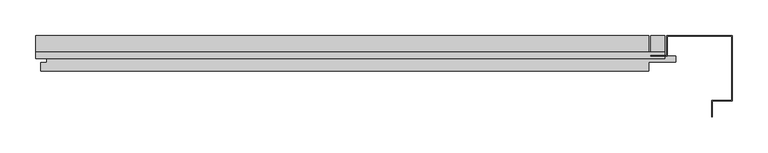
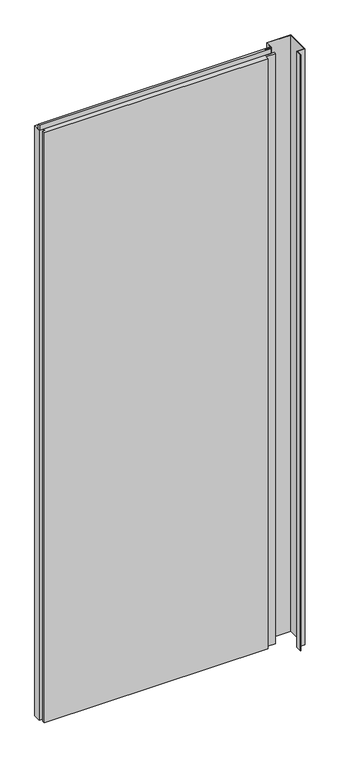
"""IFC4 building model written with IfcOpenShell, lengths in millimetres: plate geometry, Trimo_Qbiss Screen_Normal Panel-VERTICAL : HR - B."""

from ifc_helpers import new_model, si_unit, frame, origin, place, context, project, spatial, polyline, outline, extrude, source, transform, mapped, element, save


def plate_26fcdb20(model_context):
    return source(origin(), model_context, "Body", "SweptSolid", [
        extrude(outline(polyline([(456.0, 97.0), (437.0, 97.0), (437.0, 126.0), (456.0, 126.0), (456.0, 97.0)])), frame((0.0, 0.0, 12.5), z_axis=(0.0, 0.0, 1.0), x_axis=(1.0, 0.0, 0.0)), (0.0, 0.0, 1.0), 2375.0),
        extrude(outline(polyline([(-425.0, 93.9), (-425.0, 102.6), (456.0, 102.6), (456.0, 93.9), (-425.0, 93.9)])), frame((0.0, 0.0, 2390.5), z_axis=(0.0, 0.0, 1.0), x_axis=(1.0, 0.0, 0.0)), (0.0, 0.0, 1.0), 19.0),
        extrude(outline(polyline([(434.0, 97.0), (471.5, 97.0), (471.5, 89.0), (434.0, 89.0), (434.0, 76.0), (-418.0, 76.0), (-418.0, 88.0), (-409.5, 88.0), (-409.5, 98.0), (-425.0, 98.0), (-425.0, 126.0), (434.0, 126.0), (434.0, 97.0)])), frame((0.0, 0.0, 12.5), z_axis=(0.0, 0.0, 1.0), x_axis=(1.0, 0.0, 0.0)), (0.0, 0.0, 1.0), 2375.0),
        extrude(outline(polyline([(459.0, 97.8), (459.0, 126.0), (551.0, 126.0), (551.0, 34.0), (522.8, 34.0), (522.8, 12.0), (522.0, 12.0), (522.0, 34.8), (550.2, 34.8), (550.2, 125.2), (459.8, 125.2), (459.8, 97.0), (437.0, 97.0), (437.0, 97.8), (459.0, 97.8)])), frame((0.0, 0.0, 12.5), z_axis=(0.0, 0.0, 1.0), x_axis=(1.0, 0.0, 0.0)), (0.0, 0.0, 1.0), 2400.0),
    ])


if __name__ == "__main__":
    model = new_model("IFC4")
    model_context = context("Model", 3, world=origin())
    ifc_project = project(units=[si_unit("LENGTHUNIT", "METRE", prefix="MILLI")], contexts=[model_context])
    site = spatial("IfcSite", under=ifc_project)
    building = spatial("IfcBuilding", under=site)
    placement = place(None, origin())
    plate_shape = plate_26fcdb20(model_context)
    element("IfcPlate", 1, ObjectType="Trimo_Qbiss Screen_Normal Panel-VERTICAL : HR - B", at=placement, inside=building, context=model_context, shape_type="MappedRepresentation", body=[
        mapped(plate_shape, transform((0.0, 0.0, 0.0), x_axis=(1.0, 0.0, 0.0), y_axis=(0.0, 1.0, 0.0), z_axis=(0.0, 0.0, 1.0))),
    ])
    save(model, "model.ifc")
